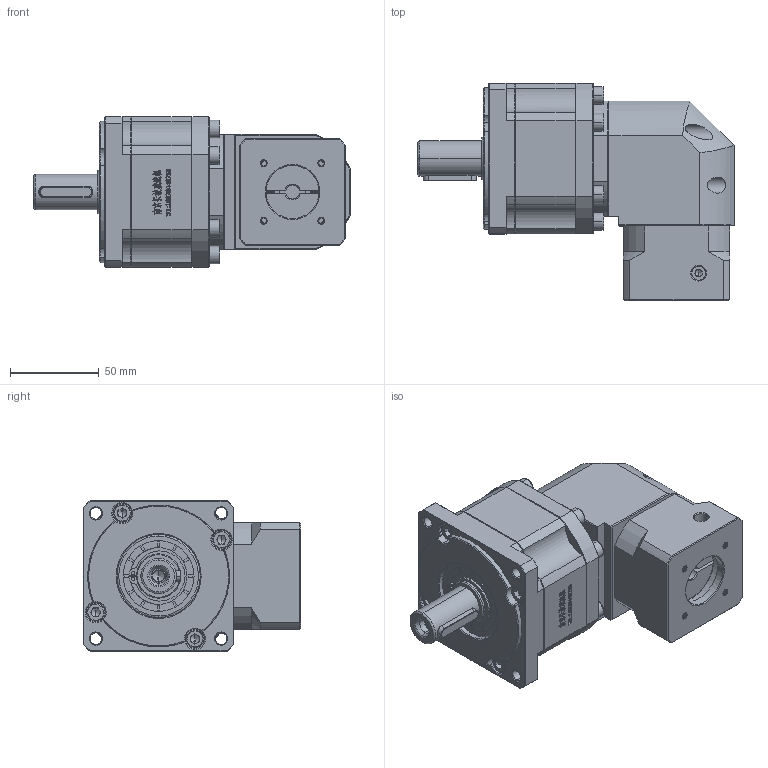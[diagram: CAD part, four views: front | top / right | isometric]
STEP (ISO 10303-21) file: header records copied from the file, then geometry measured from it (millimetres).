
FILE_DESCRIPTION (( 'STEP AP214' ), '1' );
FILE_NAME ('ZBR90-D20-L2-8-30-46-M4.step', '2022-05-07T15:16:33', ( '' ), ( 'Microsoft' ), 'SwSTEP 2.0', 'SolidWorks 2016', '' );
FILE_SCHEMA (( 'AUTOMOTIVE_DESIGN' ));
Length unit declared in the file: millimetre
Products named in the file (1): ZBR90-D20-L2-8-30-46-M4
Bounding box: 178.5 x 122.7 x 85 mm (x, y, z)
Volume: 807067.4 mm3; surface area: 101082.7 mm2
Topology: 5 solids, 5 shells, 3084 faces, 8298 edges, 5363 vertices
Faces by surface type: plane 1596, bspline 672, cylinder 429, cone 367, torus 20
Entity records: 184786 total; most frequent: CARTESIAN_POINT 78623, ORIENTED_EDGE 16520, DIRECTION 12491, EDGE_CURVE 8260, VERTEX_POINT 5363, LINE 5329, VECTOR 5329, AXIS2_PLACEMENT_3D 3581
